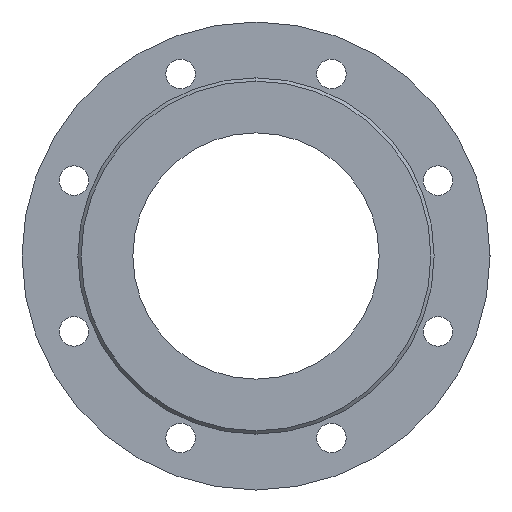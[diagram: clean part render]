
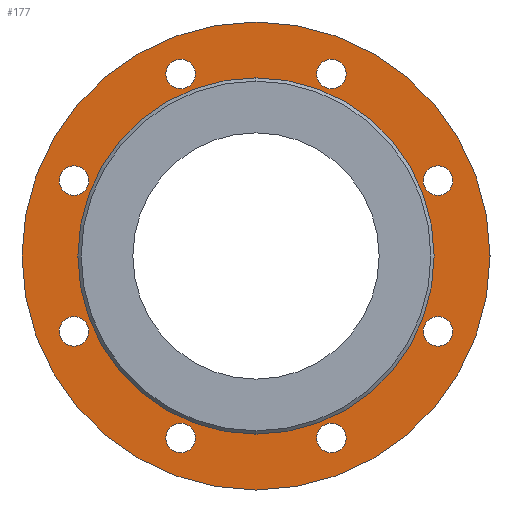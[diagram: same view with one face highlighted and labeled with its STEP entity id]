
A CAD part, left-side view. The second image highlights one B-rep face of the part: STEP entity #177.
In plain terms, the highlighted planar face has unit normal (-1, 0, 0).
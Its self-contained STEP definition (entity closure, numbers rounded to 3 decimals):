
#177=ADVANCED_FACE('',(#383,#384,#385,#386,#387,#388,#389,#390,#391,#392),#393,.F.);
#383=FACE_BOUND('',#645,.T.);
#384=FACE_BOUND('',#646,.T.);
#385=FACE_BOUND('',#647,.T.);
#386=FACE_BOUND('',#648,.T.);
#387=FACE_BOUND('',#649,.T.);
#388=FACE_BOUND('',#650,.T.);
#389=FACE_BOUND('',#651,.T.);
#390=FACE_BOUND('',#652,.T.);
#391=FACE_BOUND('',#653,.T.);
#392=FACE_OUTER_BOUND('',#654,.T.);
#393=PLANE('',#655);
#645=EDGE_LOOP('',(#1005,#1006));
#646=EDGE_LOOP('',(#1007,#1008));
#647=EDGE_LOOP('',(#1009,#1010));
#648=EDGE_LOOP('',(#1011,#1012));
#649=EDGE_LOOP('',(#1013,#1014));
#650=EDGE_LOOP('',(#1015,#1016));
#651=EDGE_LOOP('',(#1017,#1018));
#652=EDGE_LOOP('',(#1019,#1020));
#653=EDGE_LOOP('',(#1021,#1022));
#654=EDGE_LOOP('',(#1023,#1024));
#655=AXIS2_PLACEMENT_3D('',#1025,#1026,#1027);
#1005=ORIENTED_EDGE('',*,*,#1478,.T.);
#1006=ORIENTED_EDGE('',*,*,#1479,.T.);
#1007=ORIENTED_EDGE('',*,*,#1480,.T.);
#1008=ORIENTED_EDGE('',*,*,#1359,.T.);
#1009=ORIENTED_EDGE('',*,*,#1481,.T.);
#1010=ORIENTED_EDGE('',*,*,#1402,.T.);
#1011=ORIENTED_EDGE('',*,*,#1482,.T.);
#1012=ORIENTED_EDGE('',*,*,#1436,.T.);
#1013=ORIENTED_EDGE('',*,*,#1483,.T.);
#1014=ORIENTED_EDGE('',*,*,#1466,.T.);
#1015=ORIENTED_EDGE('',*,*,#1484,.T.);
#1016=ORIENTED_EDGE('',*,*,#1485,.T.);
#1017=ORIENTED_EDGE('',*,*,#1473,.T.);
#1018=ORIENTED_EDGE('',*,*,#1486,.T.);
#1019=ORIENTED_EDGE('',*,*,#1487,.T.);
#1020=ORIENTED_EDGE('',*,*,#1488,.T.);
#1021=ORIENTED_EDGE('',*,*,#1489,.T.);
#1022=ORIENTED_EDGE('',*,*,#1461,.T.);
#1023=ORIENTED_EDGE('',*,*,#1490,.F.);
#1024=ORIENTED_EDGE('',*,*,#1491,.F.);
#1025=CARTESIAN_POINT('',(2.0,0.0,0.));
#1026=DIRECTION('',(1.0,0.0,0.));
#1027=DIRECTION('',(0.,0.0,-1.0));
#1359=EDGE_CURVE('',#1588,#1586,#1589,.T.);
#1402=EDGE_CURVE('',#1663,#1661,#1664,.T.);
#1436=EDGE_CURVE('',#1717,#1715,#1718,.T.);
#1461=EDGE_CURVE('',#1758,#1756,#1759,.T.);
#1466=EDGE_CURVE('',#1767,#1765,#1768,.T.);
#1473=EDGE_CURVE('',#1774,#1778,#1780,.T.);
#1478=EDGE_CURVE('',#1785,#1786,#1787,.T.);
#1479=EDGE_CURVE('',#1786,#1785,#1788,.T.);
#1480=EDGE_CURVE('',#1586,#1588,#1789,.T.);
#1481=EDGE_CURVE('',#1661,#1663,#1790,.T.);
#1482=EDGE_CURVE('',#1715,#1717,#1791,.T.);
#1483=EDGE_CURVE('',#1765,#1767,#1792,.T.);
#1484=EDGE_CURVE('',#1793,#1794,#1795,.T.);
#1485=EDGE_CURVE('',#1794,#1793,#1796,.T.);
#1486=EDGE_CURVE('',#1778,#1774,#1797,.T.);
#1487=EDGE_CURVE('',#1798,#1799,#1800,.T.);
#1488=EDGE_CURVE('',#1799,#1798,#1801,.T.);
#1489=EDGE_CURVE('',#1756,#1758,#1802,.T.);
#1490=EDGE_CURVE('',#1803,#1804,#1805,.T.);
#1491=EDGE_CURVE('',#1804,#1803,#1806,.T.);
#1586=VERTEX_POINT('',#1915);
#1588=VERTEX_POINT('',#1918);
#1589=CIRCLE('',#1919,9.0);
#1661=VERTEX_POINT('',#1998);
#1663=VERTEX_POINT('',#2001);
#1664=CIRCLE('',#2002,9.0);
#1715=VERTEX_POINT('',#2064);
#1717=VERTEX_POINT('',#2067);
#1718=CIRCLE('',#2068,9.0);
#1756=VERTEX_POINT('',#2109);
#1758=VERTEX_POINT('',#2112);
#1759=CIRCLE('',#2113,9.0);
#1765=VERTEX_POINT('',#2120);
#1767=VERTEX_POINT('',#2123);
#1768=CIRCLE('',#2124,9.0);
#1774=VERTEX_POINT('',#2131);
#1778=VERTEX_POINT('',#2136);
#1780=CIRCLE('',#2139,9.0);
#1785=VERTEX_POINT('',#2144);
#1786=VERTEX_POINT('',#2145);
#1787=CIRCLE('',#2146,75.0);
#1788=CIRCLE('',#2147,75.0);
#1789=CIRCLE('',#2148,9.0);
#1790=CIRCLE('',#2149,9.0);
#1791=CIRCLE('',#2150,9.0);
#1792=CIRCLE('',#2151,9.0);
#1793=VERTEX_POINT('',#2152);
#1794=VERTEX_POINT('',#2153);
#1795=CIRCLE('',#2154,9.0);
#1796=CIRCLE('',#2155,9.0);
#1797=CIRCLE('',#2156,9.0);
#1798=VERTEX_POINT('',#2157);
#1799=VERTEX_POINT('',#2158);
#1800=CIRCLE('',#2159,9.0);
#1801=CIRCLE('',#2160,9.0);
#1802=CIRCLE('',#2161,9.0);
#1803=VERTEX_POINT('',#2162);
#1804=VERTEX_POINT('',#2163);
#1805=CIRCLE('',#2164,142.5);
#1806=CIRCLE('',#2165,142.5);
#1915=CARTESIAN_POINT('',(2.0,110.866,-54.922));
#1918=CARTESIAN_POINT('',(2.0,110.866,-36.922));
#1919=AXIS2_PLACEMENT_3D('',#2289,#2290,#2291);
#1998=CARTESIAN_POINT('',(2.0,45.922,-119.866));
#2001=CARTESIAN_POINT('',(2.,45.922,-101.866));
#2002=AXIS2_PLACEMENT_3D('',#2381,#2382,#2383);
#2064=CARTESIAN_POINT('',(2.0,-110.866,36.922));
#2067=CARTESIAN_POINT('',(2.0,-110.866,54.922));
#2068=AXIS2_PLACEMENT_3D('',#2435,#2436,#2437);
#2109=CARTESIAN_POINT('',(2.0,-45.922,-119.866));
#2112=CARTESIAN_POINT('',(2.,-45.922,-101.866));
#2113=AXIS2_PLACEMENT_3D('',#2493,#2494,#2495);
#2120=CARTESIAN_POINT('',(2.0,-45.922,101.866));
#2123=CARTESIAN_POINT('',(2.,-45.922,119.866));
#2124=AXIS2_PLACEMENT_3D('',#2501,#2502,#2503);
#2131=CARTESIAN_POINT('',(2.0,45.922,101.866));
#2136=CARTESIAN_POINT('',(2.,45.922,119.866));
#2139=AXIS2_PLACEMENT_3D('',#2513,#2514,#2515);
#2144=CARTESIAN_POINT('',(2.0,0.,75.0));
#2145=CARTESIAN_POINT('',(2.0,0.,-75.0));
#2146=AXIS2_PLACEMENT_3D('',#2519,#2520,#2521);
#2147=AXIS2_PLACEMENT_3D('',#2522,#2523,#2524);
#2148=AXIS2_PLACEMENT_3D('',#2525,#2526,#2527);
#2149=AXIS2_PLACEMENT_3D('',#2528,#2529,#2530);
#2150=AXIS2_PLACEMENT_3D('',#2531,#2532,#2533);
#2151=AXIS2_PLACEMENT_3D('',#2534,#2535,#2536);
#2152=CARTESIAN_POINT('',(2.0,110.866,36.922));
#2153=CARTESIAN_POINT('',(2.0,110.866,54.922));
#2154=AXIS2_PLACEMENT_3D('',#2537,#2538,#2539);
#2155=AXIS2_PLACEMENT_3D('',#2540,#2541,#2542);
#2156=AXIS2_PLACEMENT_3D('',#2543,#2544,#2545);
#2157=CARTESIAN_POINT('',(2.0,-110.866,-54.922));
#2158=CARTESIAN_POINT('',(2.0,-110.866,-36.922));
#2159=AXIS2_PLACEMENT_3D('',#2546,#2547,#2548);
#2160=AXIS2_PLACEMENT_3D('',#2549,#2550,#2551);
#2161=AXIS2_PLACEMENT_3D('',#2552,#2553,#2554);
#2162=CARTESIAN_POINT('',(2.,0.0,-142.5));
#2163=CARTESIAN_POINT('',(2.,0.,142.5));
#2164=AXIS2_PLACEMENT_3D('',#2555,#2556,#2557);
#2165=AXIS2_PLACEMENT_3D('',#2558,#2559,#2560);
#2289=CARTESIAN_POINT('',(2.0,110.866,-45.922));
#2290=DIRECTION('',(1.0,0.0,0.));
#2291=DIRECTION('',(0.,0.0,-1.0));
#2381=CARTESIAN_POINT('',(2.,45.922,-110.866));
#2382=DIRECTION('',(1.0,0.0,0.));
#2383=DIRECTION('',(0.,0.0,-1.0));
#2435=CARTESIAN_POINT('',(2.0,-110.866,45.922));
#2436=DIRECTION('',(1.0,0.0,0.));
#2437=DIRECTION('',(0.,0.0,-1.0));
#2493=CARTESIAN_POINT('',(2.,-45.922,-110.866));
#2494=DIRECTION('',(1.0,0.0,0.));
#2495=DIRECTION('',(0.,0.0,-1.0));
#2501=CARTESIAN_POINT('',(2.,-45.922,110.866));
#2502=DIRECTION('',(1.0,0.0,0.));
#2503=DIRECTION('',(0.,0.0,-1.0));
#2513=CARTESIAN_POINT('',(2.,45.922,110.866));
#2514=DIRECTION('',(1.0,0.0,0.));
#2515=DIRECTION('',(0.,0.0,-1.0));
#2519=CARTESIAN_POINT('',(2.0,0.0,0.));
#2520=DIRECTION('',(1.0,0.0,0.));
#2521=DIRECTION('',(0.,0.0,-1.0));
#2522=CARTESIAN_POINT('',(2.0,0.0,0.));
#2523=DIRECTION('',(1.0,0.0,0.));
#2524=DIRECTION('',(0.,0.0,-1.0));
#2525=CARTESIAN_POINT('',(2.0,110.866,-45.922));
#2526=DIRECTION('',(1.0,0.0,0.));
#2527=DIRECTION('',(0.,0.0,-1.0));
#2528=CARTESIAN_POINT('',(2.,45.922,-110.866));
#2529=DIRECTION('',(1.0,0.0,0.));
#2530=DIRECTION('',(0.,0.0,-1.0));
#2531=CARTESIAN_POINT('',(2.0,-110.866,45.922));
#2532=DIRECTION('',(1.0,0.0,0.));
#2533=DIRECTION('',(0.,0.0,-1.0));
#2534=CARTESIAN_POINT('',(2.,-45.922,110.866));
#2535=DIRECTION('',(1.0,0.0,0.));
#2536=DIRECTION('',(0.,0.0,-1.0));
#2537=CARTESIAN_POINT('',(2.0,110.866,45.922));
#2538=DIRECTION('',(1.0,0.0,0.));
#2539=DIRECTION('',(0.,0.0,-1.0));
#2540=CARTESIAN_POINT('',(2.0,110.866,45.922));
#2541=DIRECTION('',(1.0,0.0,0.));
#2542=DIRECTION('',(0.,0.0,-1.0));
#2543=CARTESIAN_POINT('',(2.,45.922,110.866));
#2544=DIRECTION('',(1.0,0.0,0.));
#2545=DIRECTION('',(0.,0.0,-1.0));
#2546=CARTESIAN_POINT('',(2.0,-110.866,-45.922));
#2547=DIRECTION('',(1.0,0.0,0.));
#2548=DIRECTION('',(0.,0.0,-1.0));
#2549=CARTESIAN_POINT('',(2.0,-110.866,-45.922));
#2550=DIRECTION('',(1.0,0.0,0.));
#2551=DIRECTION('',(0.,0.0,-1.0));
#2552=CARTESIAN_POINT('',(2.,-45.922,-110.866));
#2553=DIRECTION('',(1.0,0.0,0.));
#2554=DIRECTION('',(0.,0.0,-1.0));
#2555=CARTESIAN_POINT('',(2.0,0.0,0.));
#2556=DIRECTION('',(1.0,0.0,0.));
#2557=DIRECTION('',(0.,0.0,-1.0));
#2558=CARTESIAN_POINT('',(2.0,0.0,0.));
#2559=DIRECTION('',(1.0,0.0,0.));
#2560=DIRECTION('',(0.,0.0,-1.0));
